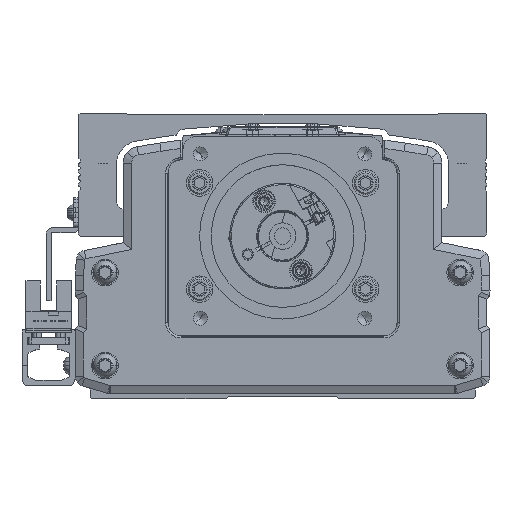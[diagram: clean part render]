
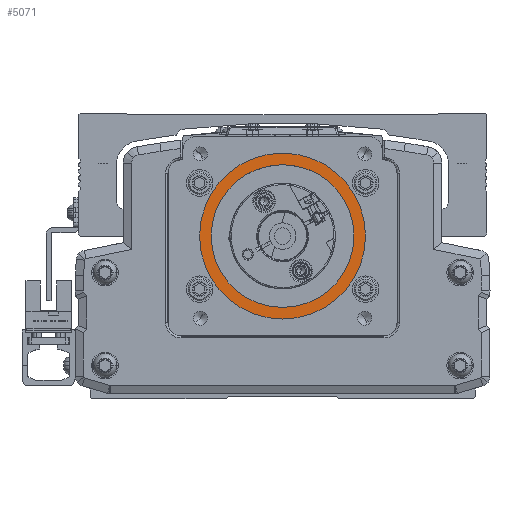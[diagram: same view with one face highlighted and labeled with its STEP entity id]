
A CAD part, front view. The second image highlights one B-rep face of the part: STEP entity #5071.
In plain terms, the highlighted planar face has unit normal (0, -1, 0).
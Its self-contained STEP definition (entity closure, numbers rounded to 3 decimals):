
#5071=ADVANCED_FACE('',(#13266,#13267),#13268,.T.);
#13266=FACE_BOUND('',#25513,.T.);
#13267=FACE_OUTER_BOUND('',#25514,.T.);
#13268=PLANE('',#25515);
#25513=EDGE_LOOP('',(#41721,#41722));
#25514=EDGE_LOOP('',(#41723,#41724));
#25515=AXIS2_PLACEMENT_3D('',#41725,#41726,#41727);
#41721=ORIENTED_EDGE('',*,*,#74222,.F.);
#41722=ORIENTED_EDGE('',*,*,#74223,.F.);
#41723=ORIENTED_EDGE('',*,*,#74224,.F.);
#41724=ORIENTED_EDGE('',*,*,#74225,.F.);
#41725=CARTESIAN_POINT('',(-300.,-535.778,0.));
#41726=DIRECTION('',(0.,-1.0,0.));
#41727=DIRECTION('',(1.0,0.,0.));
#74222=EDGE_CURVE('',#89281,#89282,#89283,.T.);
#74223=EDGE_CURVE('',#89282,#89281,#89284,.T.);
#74224=EDGE_CURVE('',#89285,#89286,#89287,.T.);
#74225=EDGE_CURVE('',#89286,#89285,#89288,.T.);
#89281=VERTEX_POINT('',#110138);
#89282=VERTEX_POINT('',#110139);
#89283=CIRCLE('',#110140,21.5);
#89284=CIRCLE('',#110141,21.5);
#89285=VERTEX_POINT('',#110142);
#89286=VERTEX_POINT('',#110143);
#89287=CIRCLE('',#110144,25.0);
#89288=CIRCLE('',#110145,25.0);
#110138=CARTESIAN_POINT('',(-278.5,-535.778,0.));
#110139=CARTESIAN_POINT('',(-321.5,-535.778,0.));
#110140=AXIS2_PLACEMENT_3D('',#135386,#135387,#135388);
#110141=AXIS2_PLACEMENT_3D('',#135389,#135390,#135391);
#110142=CARTESIAN_POINT('',(-275.,-535.778,0.));
#110143=CARTESIAN_POINT('',(-325.,-535.778,0.));
#110144=AXIS2_PLACEMENT_3D('',#135392,#135393,#135394);
#110145=AXIS2_PLACEMENT_3D('',#135395,#135396,#135397);
#135386=CARTESIAN_POINT('',(-300.,-535.778,0.));
#135387=DIRECTION('',(0.,-1.0,0.));
#135388=DIRECTION('',(1.0,0.,0.));
#135389=CARTESIAN_POINT('',(-300.,-535.778,0.));
#135390=DIRECTION('',(0.,-1.0,0.));
#135391=DIRECTION('',(1.0,0.,0.));
#135392=CARTESIAN_POINT('',(-300.,-535.778,0.));
#135393=DIRECTION('',(0.,1.0,0.));
#135394=DIRECTION('',(1.0,0.,0.));
#135395=CARTESIAN_POINT('',(-300.,-535.778,0.));
#135396=DIRECTION('',(0.,1.0,0.));
#135397=DIRECTION('',(1.0,0.,0.));
